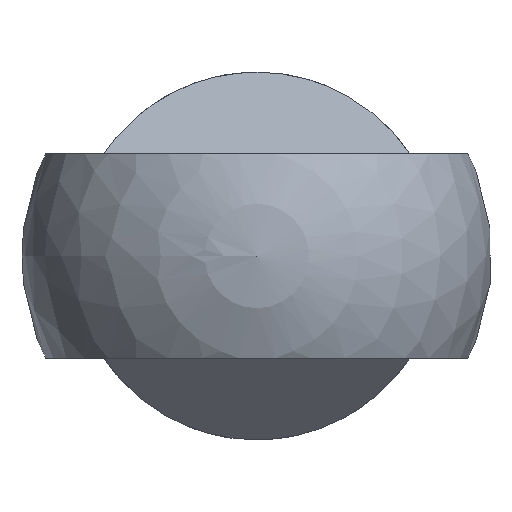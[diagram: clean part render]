
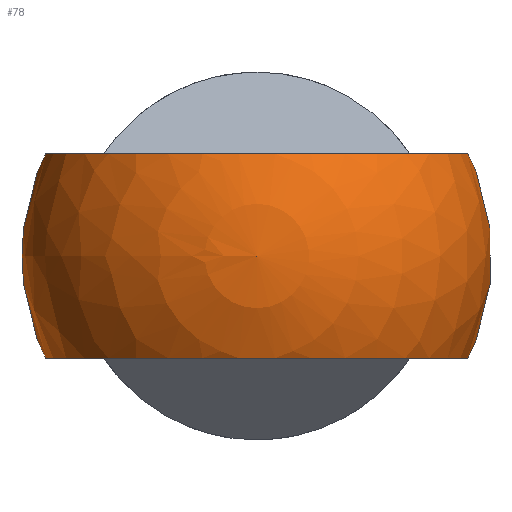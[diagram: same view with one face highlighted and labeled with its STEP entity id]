
A CAD part, left-side view. The second image highlights one B-rep face of the part: STEP entity #78.
In plain terms, the highlighted spherical face has radius 11.5 mm.
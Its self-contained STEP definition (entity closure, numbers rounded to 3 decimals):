
#78 = ADVANCED_FACE( '', ( #97, #98 ), #99, .T. );
#97 = FACE_BOUND( '', #131, .T. );
#98 = FACE_OUTER_BOUND( '', #132, .T. );
#99 = SPHERICAL_SURFACE( '', #133, 11.5 );
#131 = VERTEX_LOOP( '', #181 );
#132 = EDGE_LOOP( '', ( #182, #183, #184, #185 ) );
#133 = AXIS2_PLACEMENT_3D( '', #186, #187, #188 );
#181 = VERTEX_POINT( '', #245 );
#182 = ORIENTED_EDGE( '', *, *, #239, .F. );
#183 = ORIENTED_EDGE( '', *, *, #237, .T. );
#184 = ORIENTED_EDGE( '', *, *, #243, .F. );
#185 = ORIENTED_EDGE( '', *, *, #246, .T. );
#186 = CARTESIAN_POINT( '', ( 0., 0., 0. ) );
#187 = DIRECTION( '', ( 1., 0., 0. ) );
#188 = DIRECTION( '', ( 0., 1., 0. ) );
#237 = EDGE_CURVE( '', #257, #262, #264, .F. );
#239 = EDGE_CURVE( '', #257, #267, #268, .F. );
#243 = EDGE_CURVE( '', #273, #262, #275, .F. );
#245 = CARTESIAN_POINT( '', ( -11.5, 0., 0. ) );
#246 = EDGE_CURVE( '', #273, #267, #277, .F. );
#257 = VERTEX_POINT( '', #291 );
#262 = VERTEX_POINT( '', #298 );
#264 = CIRCLE( '', #301, 10.356 );
#267 = VERTEX_POINT( '', #304 );
#268 = CIRCLE( '', #305, 9. );
#273 = VERTEX_POINT( '', #311 );
#275 = CIRCLE( '', #314, 9. );
#277 = CIRCLE( '', #316, 10.356 );
#291 = CARTESIAN_POINT( '', ( 7.159, 7.483, -5. ) );
#298 = CARTESIAN_POINT( '', ( 7.159, -7.483, -5. ) );
#301 = AXIS2_PLACEMENT_3D( '', #336, #337, #338 );
#304 = CARTESIAN_POINT( '', ( 7.159, 7.483, 5. ) );
#305 = AXIS2_PLACEMENT_3D( '', #342, #343, #344 );
#311 = CARTESIAN_POINT( '', ( 7.159, -7.483, 5. ) );
#314 = AXIS2_PLACEMENT_3D( '', #350, #351, #352 );
#316 = AXIS2_PLACEMENT_3D( '', #356, #357, #358 );
#336 = CARTESIAN_POINT( '', ( 0., 0., -5. ) );
#337 = DIRECTION( '', ( 0., 0., -1. ) );
#338 = DIRECTION( '', ( -1., 0., 0. ) );
#342 = CARTESIAN_POINT( '', ( 7.159, 0., 0. ) );
#343 = DIRECTION( '', ( -1., 0., 0. ) );
#344 = DIRECTION( '', ( 0., -1., 0. ) );
#350 = CARTESIAN_POINT( '', ( 7.159, 0., 0. ) );
#351 = DIRECTION( '', ( -1., 0., 0. ) );
#352 = DIRECTION( '', ( 0., -1., 0. ) );
#356 = CARTESIAN_POINT( '', ( 0., 0., 5. ) );
#357 = DIRECTION( '', ( 0., 0., 1. ) );
#358 = DIRECTION( '', ( 1., 0., 0. ) );
